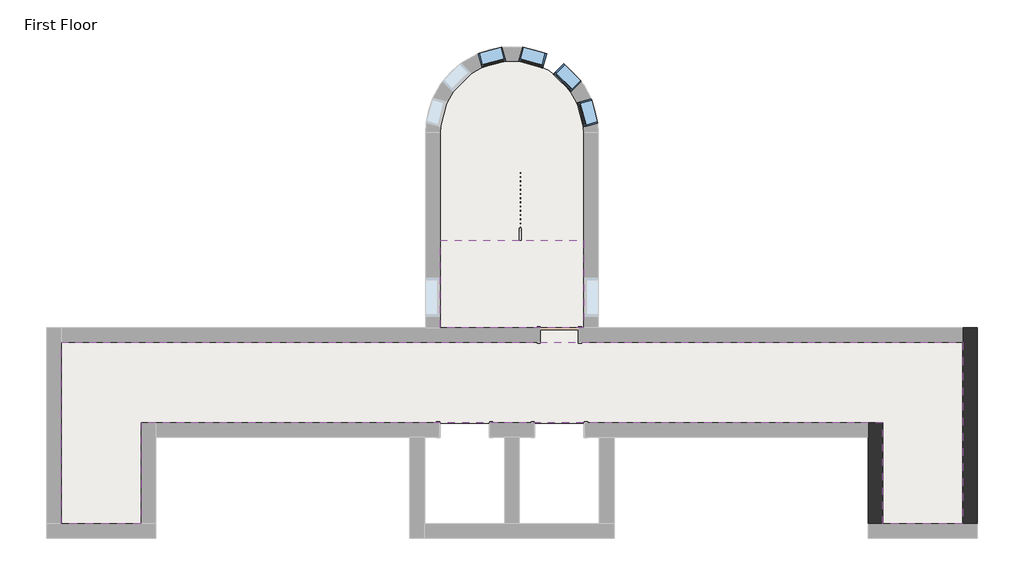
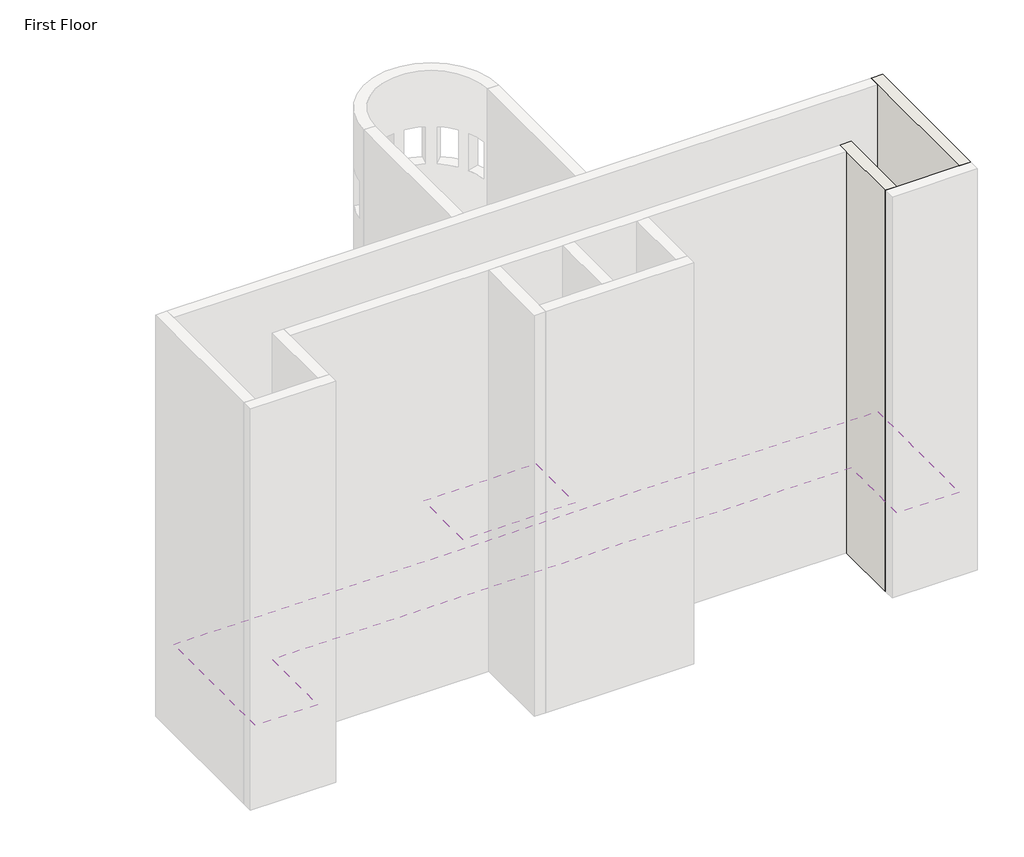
# One storey, part 3 of 5: 4 windows, 2 coverings, 2 walls, 1 slab.
"""IFC4 building model written with IfcOpenShell, lengths in millimetres."""

from ifc_helpers import new_model, si_unit, point, frame, frame_2d, origin, place, context, project, spatial, polyline, circle_curve, trimmed, segment, composite_curve, outline, extrude, faceted_brep, transform, mapped, element, save
from components import window_60baf983

model = new_model("IFC4")

# Units and contexts
model_context = context("Model", 3, world=origin())
ifc_project = project(units=[si_unit("LENGTHUNIT", "METRE", prefix="MILLI")], contexts=[model_context])

# Site, building, storey
site = spatial("IfcSite", under=ifc_project)
building = spatial("IfcBuilding", under=site)
storey = spatial("IfcBuildingStorey", under=building, Name="First Floor", Elevation=0.0)

# Coverings
placement = place(None, origin())
element("IfcCovering", 1, ObjectType="GWB on Mtl. Stud", at=placement, inside=storey, context=model_context, shape_type="SweptSolid", body=[
    extrude(outline(polyline([(-4516.8274687, 4892.1883812), (-7974.4024687, 4892.1883812), (-7974.4024687, 7001.9758812), (-4516.8274687, 7001.9758812), (-4516.8274687, 4892.1883812)])), frame((0.0, 0.0, 2438.4), z_axis=(0.0, 0.0, 1.0), x_axis=(1.0, 0.0, 0.0)), (0.0, 0.0, 1.0), 107.95),
])
element("IfcCovering", 2, ObjectType="GWB on Mtl. Stud", at=placement, inside=storey, context=model_context, shape_type="SweptSolid", body=[
    extrude(outline(polyline([(2693.5975313, 167.7883812), (2693.5975313, 2606.1883812), (-15184.8274687, 2606.1883812), (-15184.8274687, 167.7883812), (-17118.4024687, 167.7883812), (-17118.4024687, 4539.7633812), (4627.1725313, 4539.7633812), (4627.1725313, 167.7883812), (2693.5975313, 167.7883812)])), frame((0.0, 0.0, 2438.4), z_axis=(0.0, 0.0, 1.0), x_axis=(1.0, 0.0, 0.0)), (0.0, 0.0, 1.0), 107.95),
])

# Slab
element("IfcSlab", 3, ObjectType="LW Concrete on Metal Deck", at=placement, inside=storey, context=model_context, shape_type="SweptSolid", body=[
    extrude(outline(composite_curve([segment(polyline([(-4504.1274687, 9592.7758812), (-4504.1274687, 4552.4633812), (4627.1725313, 4552.4633812), (4627.1725313, 167.7883812), (2680.8975313, 167.7883812), (2680.8975313, 2593.4883812), (-15172.1274687, 2593.4883812), (-15172.1274687, 167.7883812), (-17118.4024687, 167.7883812), (-17118.4024687, 4552.4633812), (-7987.1024687, 4552.4633812), (-7987.1024687, 9592.7758812)]), True, "CONTINUOUS"), segment(trimmed(circle_curve(frame_2d((-6245.6149687, 9592.7758812)), 1741.4875), [point((-7987.1024687, 9592.7758812))], [point((-4504.1274687, 9592.7758812))], False, "CARTESIAN"), True, "CONTINUOUS")], self_intersect=False)), frame((0.0, 0.0, -104.775), z_axis=(0.0, 0.0, 1.0), x_axis=(1.0, 0.0, 0.0)), (0.0, 0.0, 1.0), 104.775),
])

# Walls
element("IfcWall", 4, ObjectType="Exterior - Brick on Mtl. Stud", at=placement, inside=storey, context=model_context, shape_type="Brep", body=[
    faceted_brep([(2341.1725313, 2606.1883812, 0.0), (2341.1725313, 2253.7633812, 0.0), (2341.1725313, 167.7883812, 0.0), (2341.1725313, 167.7883812, 13106.4), (2341.1725313, 2253.7633812, 13106.4), (2341.1725313, 2606.1883812, 13106.4), (2693.5975313, 2606.1883812, 0.0), (2693.5975313, 2606.1883812, 13106.4), (2693.5975313, 167.7883812, 13106.4), (2693.5975313, 167.7883812, 0.0)], [[[0, 1, 2, 3, 4, 5]], [[6, 7, 8, 9]], [[2, 1, 0, 6, 9]], [[5, 4, 3, 8, 7]], [[0, 5, 7, 6]], [[3, 2, 9, 8]]]),
])
element("IfcWall", 5, ObjectType="Exterior - Brick on Mtl. Stud", at=placement, inside=storey, context=model_context, shape_type="Brep", body=[
    faceted_brep([(4979.5975313, 167.7883812, 0.0), (4979.5975313, 4892.1883812, 0.0), (4979.5975313, 4892.1883812, 13106.4), (4979.5975313, 167.7883812, 13106.4), (4627.1725313, 167.7883812, 0.0), (4627.1725313, 167.7883812, 13106.4), (4627.1725313, 4539.7633812, 13106.4), (4627.1725313, 4892.1883812, 13106.4), (4627.1725313, 4892.1883812, 0.0), (4627.1725313, 4539.7633812, 0.0)], [[[0, 1, 2, 3]], [[4, 5, 6, 7, 8, 9]], [[1, 0, 4, 9, 8]], [[3, 2, 7, 6, 5]], [[2, 1, 8, 7]], [[0, 3, 5, 4]]]),
])

# Windows
window_shape = window_60baf983(model_context)
element("IfcWindow", 6, ObjectType="Fixed : 24\" x 48\"", at=placement, inside=storey, context=model_context, shape_type="MappedRepresentation", body=[
    mapped(window_shape, transform((-6764.1450232, 11402.9164066, 0.0), x_axis=(-0.96671009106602, -0.25587418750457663, 0.0), y_axis=(0.25587418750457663, -0.96671009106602, 0.0), z_axis=(0.0, 0.0, 1.0))),
])
element("IfcWindow", 7, ObjectType="Fixed : 24\" x 48\"", at=placement, inside=storey, context=model_context, shape_type="MappedRepresentation", body=[
    mapped(window_shape, transform((-5789.6049059, 11419.6685878, 0.0), x_axis=(-0.9651325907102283, 0.2617614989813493, 0.0), y_axis=(-0.2617614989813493, -0.9651325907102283, 0.0), z_axis=(0.0, 0.0, 1.0))),
])
element("IfcWindow", 8, ObjectType="Fixed : 24\" x 48\"", at=placement, inside=storey, context=model_context, shape_type="MappedRepresentation", body=[
    mapped(window_shape, transform((-4937.2523166, 10946.9063437, 0.0), x_axis=(-0.7049485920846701, 0.7092584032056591, 0.0), y_axis=(-0.7092584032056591, -0.7049485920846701, 0.0), z_axis=(0.0, 0.0, 1.0))),
])
element("IfcWindow", 9, ObjectType="Fixed : 24\" x 48\"", at=placement, inside=storey, context=model_context, shape_type="MappedRepresentation", body=[
    mapped(window_shape, transform((-4435.4744434, 10111.3059357, 0.0), x_axis=(-0.25587418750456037, 0.9667100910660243, 0.0), y_axis=(-0.9667100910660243, -0.25587418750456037, 0.0), z_axis=(0.0, 0.0, 1.0))),
])

save(model, "model.ifc")
